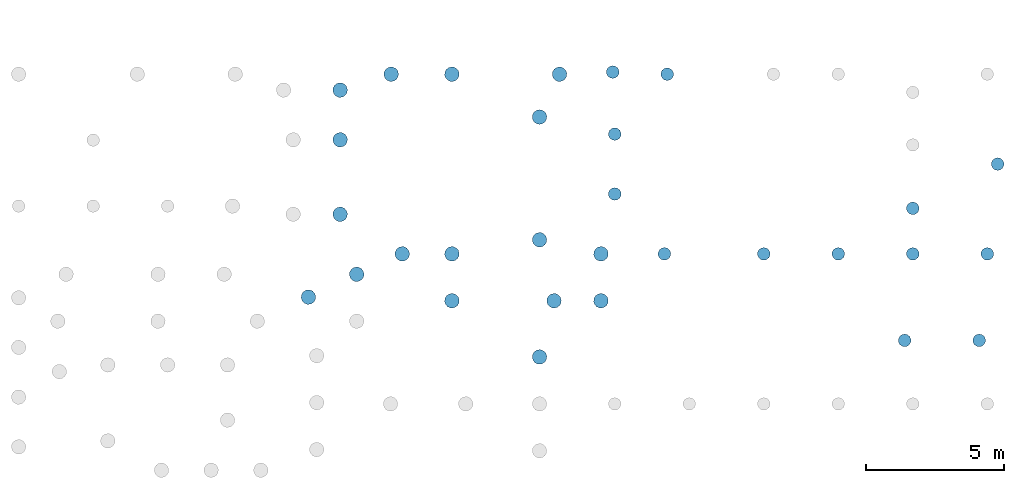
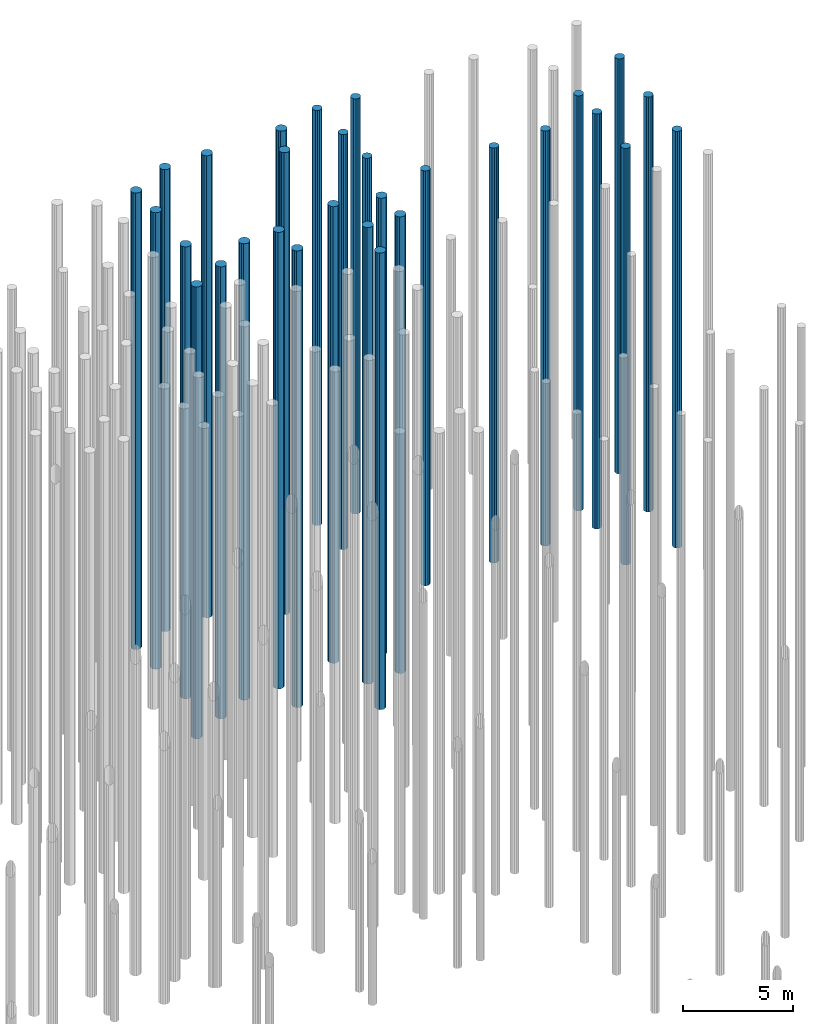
# One storey, part 19 of 20: 30 piles.
"""IFC2X3 building model written with IfcOpenShell, lengths in millimetres."""

from ifc_helpers import new_model, entity, si_unit, converted_unit, derived_unit, direction, frame, origin, place, context, subcontext, project, spatial, polyline, outline, extrude, material, element, save


model = new_model("IFC2X3")

# Units and contexts
model_context = context("Model", 3, precision=0.01, world=origin(), true_north=direction((6.12303176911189e-17, 1.0)))
body_context = subcontext(model_context, "Body", "Model", "MODEL_VIEW")
ifc_project = project(units=[si_unit("LENGTHUNIT", "METRE", prefix="MILLI"), si_unit("AREAUNIT", "SQUARE_METRE"), si_unit("VOLUMEUNIT", "CUBIC_METRE"), converted_unit("PLANEANGLEUNIT", "DEGREE", entity("IfcRatioMeasure", 0.0174532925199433), si_unit("PLANEANGLEUNIT", "RADIAN"), dimensions=[0, 0, 0, 0, 0, 0, 0]), si_unit("MASSUNIT", "GRAM", prefix="KILO"), derived_unit("MASSDENSITYUNIT", [(si_unit("MASSUNIT", "GRAM", prefix="KILO"), 1), (si_unit("LENGTHUNIT", "METRE"), -3)]), si_unit("TIMEUNIT", "SECOND"), si_unit("FREQUENCYUNIT", "HERTZ"), si_unit("THERMODYNAMICTEMPERATUREUNIT", "DEGREE_CELSIUS"), derived_unit("THERMALTRANSMITTANCEUNIT", [(si_unit("MASSUNIT", "GRAM", prefix="KILO"), 1), (si_unit("THERMODYNAMICTEMPERATUREUNIT", "KELVIN"), -1), (si_unit("TIMEUNIT", "SECOND"), -3)]), derived_unit("VOLUMETRICFLOWRATEUNIT", [(si_unit("LENGTHUNIT", "METRE"), 3), (si_unit("TIMEUNIT", "SECOND"), -1)]), si_unit("ELECTRICCURRENTUNIT", "AMPERE"), si_unit("ELECTRICVOLTAGEUNIT", "VOLT"), si_unit("POWERUNIT", "WATT"), si_unit("FORCEUNIT", "NEWTON", prefix="KILO"), si_unit("ILLUMINANCEUNIT", "LUX"), si_unit("LUMINOUSFLUXUNIT", "LUMEN"), si_unit("LUMINOUSINTENSITYUNIT", "CANDELA"), derived_unit("USERDEFINED", [(si_unit("MASSUNIT", "GRAM", prefix="KILO"), -1), (si_unit("LENGTHUNIT", "METRE"), -2), (si_unit("TIMEUNIT", "SECOND"), 3), (si_unit("LUMINOUSFLUXUNIT", "LUMEN"), 1)]), derived_unit("LINEARVELOCITYUNIT", [(si_unit("LENGTHUNIT", "METRE"), 1), (si_unit("TIMEUNIT", "SECOND"), -1)]), si_unit("PRESSUREUNIT", "PASCAL"), derived_unit("USERDEFINED", [(si_unit("LENGTHUNIT", "METRE"), -2), (si_unit("MASSUNIT", "GRAM", prefix="KILO"), 1), (si_unit("TIMEUNIT", "SECOND"), -2)])], contexts=[model_context])

# Site, building, storey
site_placement = place(None, origin())
site = spatial("IfcSite", under=ifc_project, at=site_placement, Name="Default", CompositionType="ELEMENT")
building_placement = place(site_placement, origin())
building = spatial("IfcBuilding", under=site, at=building_placement, Name="niet gebruiken", CompositionType="ELEMENT")
storey_placement = place(building_placement, frame((0.0, 0.0, -4000.0)))
storey = spatial("IfcBuildingStorey", under=building, at=storey_placement, Name="Level t.b.v. palenplan", CompositionType="ELEMENT", Elevation=-4000.0)

# Piles
ifc_material = material(Name="NLRS_f2_beton ihwg")
pile_1_placement = place(storey_placement, origin())
element("IfcPile", 1, at=pile_1_placement, inside=storey, material=ifc_material, Name="NLRS_17.12_SFO_TLB_funderingspaal grondverdringend_gen:Fundex_r530/650", ObjectType="NLRS_17.12_SFO_TLB_funderingspaal grondverdringend_gen:Fundex_r530/650", context=body_context, shape_type="SweptSolid", body=[
    extrude(outline(polyline([(-55.096598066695, -259.209114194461), (55.0965980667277, -259.209114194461), (155.763091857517, -214.389503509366), (229.496732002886, -132.500000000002), (263.548302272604, -27.7000427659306), (252.029976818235, 81.8895035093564), (196.933378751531, 177.319610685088), (107.785210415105, 242.089546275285), (55.0965980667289, 259.209114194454), (-55.0965980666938, 259.209114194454), (-155.763091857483, 214.389503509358), (-229.496732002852, 132.499999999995), (-263.54830227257, 27.7000427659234), (-252.029976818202, -81.8895035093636), (-196.933378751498, -177.319610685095), (-107.785210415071, -242.089546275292), (-55.096598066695, -259.209114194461)])), frame((102100.0, 46621.0, -23100.0), z_axis=(0.0, 0.0, 1.0), x_axis=(-0.978147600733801, -0.207911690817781, 0.0)), (0.0, 0.0, 1.0), 25328.0),
])
pile_2_placement = place(storey_placement, origin())
element("IfcPile", 2, at=pile_2_placement, inside=storey, material=ifc_material, Name="NLRS_17.12_SFO_TLB_funderingspaal grondverdringend_gen:Fundex_r530/650", ObjectType="NLRS_17.12_SFO_TLB_funderingspaal grondverdringend_gen:Fundex_r530/650", context=body_context, shape_type="SweptSolid", body=[
    extrude(outline(polyline([(-55.0965980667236, -259.209114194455), (55.0965980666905, -259.209114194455), (155.763091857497, -214.389503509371), (229.496732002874, -132.500000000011), (263.548302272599, -27.7000427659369), (252.029976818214, 81.8895035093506), (196.93337875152, 177.319610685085), (107.785210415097, 242.089546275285), (55.0965980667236, 259.209114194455), (-55.0965980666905, 259.209114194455), (-155.763091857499, 214.389503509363), (-229.496732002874, 132.500000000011), (-263.548302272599, 27.7000427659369), (-252.029976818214, -81.8895035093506), (-196.93337875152, -177.319610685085), (-107.785210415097, -242.089546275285), (-55.0965980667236, -259.209114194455)])), frame((102100.0, 44921.0, -23100.0), z_axis=(0.0, 0.0, 1.0), x_axis=(-0.978147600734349, -0.207911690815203, 0.0)), (0.0, 0.0, 1.0), 25328.0),
])
pile_3_placement = place(storey_placement, origin())
element("IfcPile", 3, at=pile_3_placement, inside=storey, material=ifc_material, Name="NLRS_17.12_SFO_TLB_funderingspaal grondverdringend_gen:Fundex_r530/650", ObjectType="NLRS_17.12_SFO_TLB_funderingspaal grondverdringend_gen:Fundex_r530/650", context=body_context, shape_type="SweptSolid", body=[
    extrude(outline(polyline([(-55.0965980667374, -259.209114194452), (55.0965980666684, -259.209114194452), (155.763091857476, -214.389503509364), (229.496732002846, -132.500000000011), (263.548302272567, -27.7000427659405), (252.029976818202, 81.8895035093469), (196.933378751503, 177.319610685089), (107.785210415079, 242.089546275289), (55.0965980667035, 259.20911419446), (-55.0965980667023, 259.20911419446), (-155.76309185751, 214.389503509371), (-229.49673200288, 132.500000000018), (-263.548302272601, 27.7000427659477), (-252.029976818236, -81.8895035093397), (-196.933378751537, -177.319610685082), (-107.785210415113, -242.089546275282), (-55.0965980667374, -259.209114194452)])), frame((100300.0, 46621.0, -23100.0), z_axis=(0.0, 0.0, 1.0), x_axis=(-0.978147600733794, -0.207911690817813, 0.0)), (0.0, 0.0, 1.0), 25328.0),
])
pile_4_placement = place(storey_placement, origin())
element("IfcPile", 4, at=pile_4_placement, inside=storey, material=ifc_material, Name="NLRS_17.12_SFO_TLB_funderingspaal grondverdringend_gen:Fundex_r530/650", ObjectType="NLRS_17.12_SFO_TLB_funderingspaal grondverdringend_gen:Fundex_r530/650", context=body_context, shape_type="SweptSolid", body=[
    extrude(outline(polyline([(-55.096598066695, -259.209114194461), (55.0965980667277, -259.209114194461), (155.763091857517, -214.389503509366), (229.496732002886, -132.500000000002), (263.548302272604, -27.7000427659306), (252.029976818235, 81.8895035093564), (196.933378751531, 177.319610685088), (107.785210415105, 242.089546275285), (55.0965980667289, 259.209114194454), (-55.0965980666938, 259.209114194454), (-155.763091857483, 214.389503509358), (-229.496732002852, 132.499999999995), (-263.54830227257, 27.7000427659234), (-252.029976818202, -81.8895035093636), (-196.933378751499, -177.319610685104), (-107.785210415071, -242.089546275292), (-55.096598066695, -259.209114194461)])), frame((102100.0, 53131.0, -23100.0), z_axis=(0.0, 0.0, 1.0), x_axis=(-0.978147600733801, -0.207911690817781, 0.0)), (0.0, 0.0, 1.0), 25628.0),
])
pile_5_placement = place(storey_placement, origin())
element("IfcPile", 5, at=pile_5_placement, inside=storey, material=ifc_material, Name="NLRS_17.12_SFO_TLB_funderingspaal grondverdringend_gen:Fundex_r530/650", ObjectType="NLRS_17.12_SFO_TLB_funderingspaal grondverdringend_gen:Fundex_r530/650", context=body_context, shape_type="SweptSolid", body=[
    extrude(outline(polyline([(-55.0965980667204, -259.209114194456), (55.0965980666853, -259.209114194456), (155.763091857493, -214.389503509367), (229.496732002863, -132.500000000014), (263.548302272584, -27.7000427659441), (252.029976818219, 81.8895035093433), (196.93337875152, 177.319610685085), (107.785210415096, 242.089546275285), (55.0965980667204, 259.209114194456), (-55.0965980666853, 259.209114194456), (-155.763091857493, 214.389503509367), (-229.496732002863, 132.500000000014), (-263.548302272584, 27.7000427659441), (-252.029976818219, -81.8895035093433), (-196.93337875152, -177.319610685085), (-107.785210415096, -242.089546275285), (-55.0965980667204, -259.209114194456)])), frame((98650.0, 45881.0, -23100.0), z_axis=(0.0, 0.0, 1.0), x_axis=(-0.978147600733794, -0.207911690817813, 0.0)), (0.0, 0.0, 1.0), 25070.0),
])
pile_6_placement = place(storey_placement, origin())
element("IfcPile", 6, at=pile_6_placement, inside=storey, material=ifc_material, Name="NLRS_17.12_SFO_TLB_funderingspaal grondverdringend_gen:Fundex_r530/650", ObjectType="NLRS_17.12_SFO_TLB_funderingspaal grondverdringend_gen:Fundex_r530/650", context=body_context, shape_type="SweptSolid", body=[
    extrude(outline(polyline([(-55.0965980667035, -259.20911419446), (55.0965980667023, -259.20911419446), (155.76309185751, -214.389503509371), (229.49673200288, -132.500000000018), (263.548302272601, -27.7000427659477), (252.029976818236, 81.8895035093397), (196.933378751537, 177.319610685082), (107.785210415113, 242.089546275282), (55.0965980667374, 259.209114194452), (-55.0965980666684, 259.209114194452), (-155.763091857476, 214.389503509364), (-229.496732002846, 132.500000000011), (-263.548302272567, 27.7000427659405), (-252.029976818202, -81.8895035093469), (-196.933378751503, -177.319610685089), (-107.785210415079, -242.089546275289), (-55.0965980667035, -259.20911419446)])), frame((98050.0, 48056.0, -23100.0), z_axis=(0.0, 0.0, 1.0), x_axis=(-0.978147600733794, -0.207911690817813, 0.0)), (0.0, 0.0, 1.0), 25070.0),
])
pile_7_placement = place(storey_placement, origin())
element("IfcPile", 7, at=pile_7_placement, inside=storey, material=ifc_material, Name="NLRS_17.12_SFO_TLB_funderingspaal grondverdringend_gen:Fundex_r530/650", ObjectType="NLRS_17.12_SFO_TLB_funderingspaal grondverdringend_gen:Fundex_r530/650", context=body_context, shape_type="SweptSolid", body=[
    extrude(outline(polyline([(-55.0965980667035, -259.20911419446), (55.0965980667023, -259.20911419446), (155.76309185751, -214.389503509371), (229.49673200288, -132.500000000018), (263.548302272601, -27.7000427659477), (252.029976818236, 81.8895035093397), (196.933378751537, 177.319610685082), (107.785210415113, 242.089546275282), (55.0965980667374, 259.209114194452), (-55.0965980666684, 259.209114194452), (-155.763091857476, 214.389503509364), (-229.496732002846, 132.500000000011), (-263.548302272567, 27.7000427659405), (-252.029976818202, -81.8895035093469), (-196.933378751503, -177.319610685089), (-107.785210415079, -242.089546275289), (-55.0965980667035, -259.20911419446)])), frame((98050.0, 50756.0, -23100.0), z_axis=(0.0, 0.0, 1.0), x_axis=(-0.978147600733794, -0.207911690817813, 0.0)), (0.0, 0.0, 1.0), 25328.0),
])
pile_8_placement = place(storey_placement, origin())
element("IfcPile", 8, at=pile_8_placement, inside=storey, material=ifc_material, Name="NLRS_17.12_SFO_TLB_funderingspaal grondverdringend_gen:Fundex_r530/650", ObjectType="NLRS_17.12_SFO_TLB_funderingspaal grondverdringend_gen:Fundex_r530/650", context=body_context, shape_type="SweptSolid", body=[
    extrude(outline(polyline([(-55.0965980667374, -259.209114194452), (55.0965980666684, -259.209114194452), (155.763091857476, -214.389503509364), (229.496732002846, -132.500000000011), (263.548302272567, -27.7000427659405), (252.029976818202, 81.8895035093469), (196.933378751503, 177.319610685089), (107.785210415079, 242.089546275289), (55.0965980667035, 259.20911419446), (-55.0965980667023, 259.20911419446), (-155.76309185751, 214.389503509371), (-229.49673200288, 132.500000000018), (-263.548302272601, 27.7000427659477), (-252.029976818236, -81.8895035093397), (-196.933378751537, -177.319610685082), (-107.785210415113, -242.089546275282), (-55.0965980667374, -259.209114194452)])), frame((98050.0, 52556.0, -23100.0), z_axis=(0.0, 0.0, 1.0), x_axis=(-0.978147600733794, -0.207911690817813, 0.0)), (0.0, 0.0, 1.0), 25328.0),
])
pile_9_placement = place(storey_placement, origin())
element("IfcPile", 9, at=pile_9_placement, inside=storey, material=ifc_material, Name="NLRS_17.12_SFO_TLB_funderingspaal grondverdringend_gen:Fundex_r530/650", ObjectType="NLRS_17.12_SFO_TLB_funderingspaal grondverdringend_gen:Fundex_r530/650", context=body_context, shape_type="SweptSolid", body=[
    extrude(outline(polyline([(-55.0965980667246, -259.209114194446), (55.0965980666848, -259.209114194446), (155.763091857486, -214.389503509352), (229.496732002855, -132.49999999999), (263.548302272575, -27.7000427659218), (252.029976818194, 81.8895035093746), (196.933378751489, 177.319610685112), (107.785210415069, 242.0895462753), (55.0965980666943, 259.20911419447), (-55.096598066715, 259.20911419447), (-155.763091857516, 214.389503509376), (-229.496732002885, 132.500000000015), (-263.548302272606, 27.700042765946), (-252.029976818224, -81.8895035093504), (-196.933378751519, -177.319610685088), (-107.785210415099, -242.089546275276), (-55.0965980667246, -259.209114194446)])), frame((106000.0, 53131.0, -23100.0), z_axis=(0.0, 0.0, 1.0), x_axis=(-0.978147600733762, -0.207911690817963, 0.0)), (0.0, 0.0, 1.0), 25628.0),
])
pile_10_placement = place(storey_placement, origin())
element("IfcPile", 10, at=pile_10_placement, inside=storey, material=ifc_material, Name="NLRS_17.12_SFO_TLB_funderingspaal grondverdringend_gen:Fundex_r460/560", ObjectType="NLRS_17.12_SFO_TLB_funderingspaal grondverdringend_gen:Fundex_r460/560", context=body_context, shape_type="SweptSolid", body=[
    extrude(outline(polyline([(-25.7518295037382, -228.553808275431), (25.7518295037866, -228.553808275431), (122.367377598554, -194.746565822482), (194.746565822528, -122.367377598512), (228.553808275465, -25.7518295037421), (217.093165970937, 75.9641842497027), (162.63455967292, 162.634559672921), (75.9641842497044, 217.093165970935), (25.7518295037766, 228.553808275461), (-25.7518295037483, 228.553808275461), (-122.367377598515, 194.746565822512), (-194.74656582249, 122.367377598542), (-228.553808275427, 25.7518295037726), (-217.093165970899, -75.9641842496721), (-162.634559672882, -162.634559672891), (-75.9641842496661, -217.093165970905), (-25.7518295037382, -228.553808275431)])), frame((109900.0, 53131.0, -20100.0), z_axis=(0.0, 0.0, 1.0), x_axis=(0.111964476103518, -0.993712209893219, 0.0)), (0.0, 0.0, 1.0), 23028.0),
])
pile_11_placement = place(storey_placement, origin())
element("IfcPile", 11, at=pile_11_placement, inside=storey, material=ifc_material, Name="NLRS_17.12_SFO_TLB_funderingspaal grondverdringend_gen:Fundex_r460/560", ObjectType="NLRS_17.12_SFO_TLB_funderingspaal grondverdringend_gen:Fundex_r460/560", context=body_context, shape_type="SweptSolid", body=[
    extrude(outline(polyline([(-25.751829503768, -228.553808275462), (25.7518295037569, -228.553808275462), (122.367377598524, -194.746565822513), (194.746565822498, -122.367377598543), (228.553808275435, -25.7518295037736), (217.093165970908, 75.9641842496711), (162.634559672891, 162.63455967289), (75.9641842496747, 217.093165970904), (25.7518295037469, 228.55380827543), (-25.751829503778, 228.55380827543), (-122.367377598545, 194.746565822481), (-194.74656582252, 122.367377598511), (-228.553808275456, 25.7518295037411), (-217.093165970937, -75.9641842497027), (-162.634559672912, -162.634559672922), (-75.9641842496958, -217.093165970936), (-25.751829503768, -228.553808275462)])), frame((107927.162729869, 53210.0171539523, -20100.0), z_axis=(0.0, 0.0, 1.0), x_axis=(0.111964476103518, -0.993712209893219, 0.0)), (0.0, 0.0, 1.0), 23028.0),
])
pile_12_placement = place(storey_placement, origin())
element("IfcPile", 12, at=pile_12_placement, inside=storey, material=ifc_material, Name="NLRS_17.12_SFO_TLB_funderingspaal grondverdringend_gen:Fundex_r460/560", ObjectType="NLRS_17.12_SFO_TLB_funderingspaal grondverdringend_gen:Fundex_r460/560", context=body_context, shape_type="SweptSolid", body=[
    extrude(outline(polyline([(-25.7518295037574, -228.553808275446), (25.7518295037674, -228.553808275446), (122.367377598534, -194.746565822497), (194.746565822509, -122.367377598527), (228.553808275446, -25.7518295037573), (217.093165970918, 75.9641842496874), (162.634559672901, 162.634559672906), (75.9641842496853, 217.09316597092), (25.7518295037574, 228.553808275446), (-25.7518295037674, 228.553808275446), (-122.367377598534, 194.746565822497), (-194.746565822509, 122.367377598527), (-228.553808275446, 25.7518295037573), (-217.093165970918, -75.9641842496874), (-162.634559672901, -162.634559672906), (-75.9641842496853, -217.09316597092), (-25.7518295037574, -228.553808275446)])), frame((118800.0, 48271.0, -20100.0), z_axis=(0.0, 0.0, 1.0), x_axis=(0.111964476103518, -0.993712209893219, 0.0)), (0.0, 0.0, 1.0), 23028.0),
])
pile_13_placement = place(storey_placement, origin())
element("IfcPile", 13, at=pile_13_placement, inside=storey, material=ifc_material, Name="NLRS_17.12_SFO_TLB_funderingspaal grondverdringend_gen:Fundex_r460/560", ObjectType="NLRS_17.12_SFO_TLB_funderingspaal grondverdringend_gen:Fundex_r460/560", context=body_context, shape_type="SweptSolid", body=[
    extrude(outline(polyline([(-25.7518295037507, -228.553808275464), (25.7518295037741, -228.553808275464), (122.367377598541, -194.746565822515), (194.746565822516, -122.367377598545), (228.553808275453, -25.7518295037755), (217.093165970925, 75.9641842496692), (162.634559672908, 162.634559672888), (75.9641842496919, 217.093165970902), (25.7518295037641, 228.553808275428), (-25.7518295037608, 228.553808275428), (-122.367377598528, 194.746565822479), (-194.746565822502, 122.367377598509), (-228.553808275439, 25.7518295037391), (-217.093165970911, -75.9641842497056), (-162.634559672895, -162.634559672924), (-75.9641842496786, -217.093165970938), (-25.7518295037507, -228.553808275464)])), frame((121875.0, 49876.0, -20100.0), z_axis=(0.0, 0.0, 1.0), x_axis=(0.111964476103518, -0.993712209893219, 0.0)), (0.0, 0.0, 1.0), 23028.0),
])
pile_14_placement = place(storey_placement, origin())
element("IfcPile", 14, at=pile_14_placement, inside=storey, material=ifc_material, Name="NLRS_17.12_SFO_TLB_funderingspaal grondverdringend_gen:Fundex_r460/560", ObjectType="NLRS_17.12_SFO_TLB_funderingspaal grondverdringend_gen:Fundex_r460/560", context=body_context, shape_type="SweptSolid", body=[
    extrude(outline(polyline([(-25.751829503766, -228.553808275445), (25.7518295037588, -228.553808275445), (122.367377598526, -194.746565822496), (194.7465658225, -122.367377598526), (228.553808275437, -25.7518295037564), (217.093165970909, 75.9641842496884), (162.634559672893, 162.634559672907), (75.9641842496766, 217.093165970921), (25.7518295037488, 228.553808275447), (-25.751829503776, 228.553808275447), (-122.367377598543, 194.746565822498), (-194.746565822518, 122.367377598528), (-228.553808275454, 25.7518295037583), (-217.093165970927, -75.9641842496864), (-162.63455967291, -162.634559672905), (-75.9641842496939, -217.093165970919), (-25.751829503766, -228.553808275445)])), frame((118800.0, 46621.0, -20100.0), z_axis=(0.0, 0.0, 1.0), x_axis=(0.111964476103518, -0.993712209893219, 0.0)), (0.0, 0.0, 1.0), 23018.0),
])
pile_15_placement = place(storey_placement, origin())
element("IfcPile", 15, at=pile_15_placement, inside=storey, material=ifc_material, Name="NLRS_17.12_SFO_TLB_funderingspaal grondverdringend_gen:Fundex_r460/560", ObjectType="NLRS_17.12_SFO_TLB_funderingspaal grondverdringend_gen:Fundex_r460/560", context=body_context, shape_type="SweptSolid", body=[
    extrude(outline(polyline([(-25.7518295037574, -228.553808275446), (25.7518295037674, -228.553808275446), (122.367377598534, -194.746565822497), (194.746565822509, -122.367377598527), (228.553808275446, -25.7518295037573), (217.093165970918, 75.9641842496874), (162.634559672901, 162.634559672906), (75.9641842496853, 217.09316597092), (25.7518295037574, 228.553808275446), (-25.7518295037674, 228.553808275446), (-122.367377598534, 194.746565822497), (-194.746565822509, 122.367377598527), (-228.553808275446, 25.7518295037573), (-217.093165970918, -75.9641842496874), (-162.634559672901, -162.634559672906), (-75.9641842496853, -217.09316597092), (-25.7518295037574, -228.553808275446)])), frame((121500.0, 46621.0, -20100.0), z_axis=(0.0, 0.0, 1.0), x_axis=(0.111964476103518, -0.993712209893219, 0.0)), (0.0, 0.0, 1.0), 23018.0),
])
pile_16_placement = place(storey_placement, origin())
element("IfcPile", 16, at=pile_16_placement, inside=storey, material=ifc_material, Name="NLRS_17.12_SFO_TLB_funderingspaal grondverdringend_gen:Fundex_r460/560", ObjectType="NLRS_17.12_SFO_TLB_funderingspaal grondverdringend_gen:Fundex_r460/560", context=body_context, shape_type="SweptSolid", body=[
    extrude(outline(polyline([(-25.7518295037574, -228.553808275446), (25.7518295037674, -228.553808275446), (122.367377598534, -194.746565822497), (194.746565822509, -122.367377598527), (228.553808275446, -25.7518295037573), (217.093165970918, 75.9641842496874), (162.634559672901, 162.634559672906), (75.9641842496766, 217.093165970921), (25.7518295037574, 228.553808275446), (-25.7518295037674, 228.553808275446), (-122.367377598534, 194.746565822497), (-194.746565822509, 122.367377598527), (-228.553808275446, 25.7518295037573), (-217.093165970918, -75.9641842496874), (-162.634559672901, -162.634559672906), (-75.9641842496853, -217.09316597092), (-25.7518295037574, -228.553808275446)])), frame((116100.0, 46621.0, -20100.0), z_axis=(0.0, 0.0, 1.0), x_axis=(0.111964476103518, -0.993712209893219, 0.0)), (0.0, 0.0, 1.0), 23018.0),
])
pile_17_placement = place(storey_placement, origin())
element("IfcPile", 17, at=pile_17_placement, inside=storey, material=ifc_material, Name="NLRS_17.12_SFO_TLB_funderingspaal grondverdringend_gen:Fundex_r460/560", ObjectType="NLRS_17.12_SFO_TLB_funderingspaal grondverdringend_gen:Fundex_r460/560", context=body_context, shape_type="SweptSolid", body=[
    extrude(outline(polyline([(-25.7518295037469, -228.55380827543), (25.751829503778, -228.55380827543), (122.367377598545, -194.746565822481), (194.74656582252, -122.367377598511), (228.553808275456, -25.7518295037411), (217.093165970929, 75.9641842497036), (162.634559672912, 162.634559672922), (75.9641842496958, 217.093165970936), (25.751829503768, 228.553808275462), (-25.7518295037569, 228.553808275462), (-122.367377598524, 194.746565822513), (-194.746565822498, 122.367377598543), (-228.553808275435, 25.7518295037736), (-217.093165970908, -75.9641842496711), (-162.634559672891, -162.63455967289), (-75.9641842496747, -217.093165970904), (-25.7518295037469, -228.55380827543)])), frame((113400.0, 46621.0, -20100.0), z_axis=(0.0, 0.0, 1.0), x_axis=(0.111964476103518, -0.993712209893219, 0.0)), (0.0, 0.0, 1.0), 23018.0),
])
pile_18_placement = place(storey_placement, origin())
element("IfcPile", 18, at=pile_18_placement, inside=storey, material=ifc_material, Name="NLRS_17.12_SFO_TLB_funderingspaal grondverdringend_gen:Fundex_r460/560", ObjectType="NLRS_17.12_SFO_TLB_funderingspaal grondverdringend_gen:Fundex_r460/560", context=body_context, shape_type="SweptSolid", body=[
    extrude(outline(polyline([(-25.7518295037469, -228.55380827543), (25.751829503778, -228.55380827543), (122.367377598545, -194.746565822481), (194.74656582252, -122.367377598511), (228.553808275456, -25.7518295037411), (217.093165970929, 75.9641842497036), (162.634559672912, 162.634559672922), (75.9641842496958, 217.093165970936), (25.751829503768, 228.553808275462), (-25.7518295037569, 228.553808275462), (-122.367377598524, 194.746565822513), (-194.746565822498, 122.367377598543), (-228.553808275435, 25.7518295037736), (-217.093165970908, -75.9641842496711), (-162.634559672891, -162.63455967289), (-75.9641842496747, -217.093165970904), (-25.7518295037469, -228.55380827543)])), frame((109800.0, 46621.0, -20100.0), z_axis=(0.0, 0.0, 1.0), x_axis=(0.111964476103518, -0.993712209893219, 0.0)), (0.0, 0.0, 1.0), 23018.0),
])
pile_19_placement = place(storey_placement, origin())
element("IfcPile", 19, at=pile_19_placement, inside=storey, material=ifc_material, Name="NLRS_17.12_SFO_TLB_funderingspaal grondverdringend_gen:Fundex_r460/560", ObjectType="NLRS_17.12_SFO_TLB_funderingspaal grondverdringend_gen:Fundex_r460/560", context=body_context, shape_type="SweptSolid", body=[
    extrude(outline(polyline([(-25.7518295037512, -228.553808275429), (25.7518295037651, -228.553808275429), (122.367377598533, -194.746565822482), (194.746565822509, -122.367377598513), (228.553808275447, -25.7518295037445), (217.093165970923, 75.9641842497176), (162.634559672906, 162.63455967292), (75.9641842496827, 217.093165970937), (25.751829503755, 228.553808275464), (-25.7518295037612, 228.553808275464), (-122.367377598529, 194.746565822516), (-194.746565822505, 122.367377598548), (-228.553808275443, 25.751829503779), (-217.09316597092, -75.9641842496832), (-162.634559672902, -162.634559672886), (-75.9641842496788, -217.093165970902), (-25.7518295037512, -228.553808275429)])), frame((108000.0, 48791.0, -20100.0), z_axis=(0.0, 0.0, 1.0), x_axis=(0.111964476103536, -0.993712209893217, 0.0)), (0.0, 0.0, 1.0), 23028.0),
])
pile_20_placement = place(storey_placement, origin())
element("IfcPile", 20, at=pile_20_placement, inside=storey, material=ifc_material, Name="NLRS_17.12_SFO_TLB_funderingspaal grondverdringend_gen:Fundex_r460/560", ObjectType="NLRS_17.12_SFO_TLB_funderingspaal grondverdringend_gen:Fundex_r460/560", context=body_context, shape_type="SweptSolid", body=[
    extrude(outline(polyline([(-25.7518295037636, -228.553808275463), (25.7518295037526, -228.553808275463), (122.36737759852, -194.746565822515), (194.746565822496, -122.367377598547), (228.553808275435, -25.751829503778), (217.093165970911, 75.9641842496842), (162.634559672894, 162.634559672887), (75.9641842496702, 217.093165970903), (25.7518295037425, 228.55380827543), (-25.7518295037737, 228.55380827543), (-122.367377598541, 194.746565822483), (-194.746565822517, 122.367377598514), (-228.553808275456, 25.7518295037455), (-217.093165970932, -75.9641842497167), (-162.634559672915, -162.634559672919), (-75.9641842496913, -217.093165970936), (-25.7518295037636, -228.553808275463)])), frame((108000.0, 50961.0, -20100.0), z_axis=(0.0, 0.0, 1.0), x_axis=(0.111964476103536, -0.993712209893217, 0.0)), (0.0, 0.0, 1.0), 23028.0),
])
pile_21_placement = place(storey_placement, origin())
element("IfcPile", 21, at=pile_21_placement, inside=storey, material=ifc_material, Name="NLRS_17.12_SFO_TLB_funderingspaal grondverdringend_gen:Fundex_r530/650", ObjectType="NLRS_17.12_SFO_TLB_funderingspaal grondverdringend_gen:Fundex_r530/650", context=body_context, shape_type="SweptSolid", body=[
    extrude(outline(polyline([(-55.0965980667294, -259.209114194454), (55.0965980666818, -259.209114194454), (155.763091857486, -214.389503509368), (229.496732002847, -132.499999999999), (263.548302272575, -27.7000427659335), (252.0299768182, 81.8895035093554), (196.933378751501, 177.319610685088), (107.785210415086, 242.089546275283), (55.0965980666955, 259.209114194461), (-55.0965980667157, 259.209114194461), (-155.76309185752, 214.389503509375), (-229.49673200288, 132.500000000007), (-263.548302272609, 27.7000427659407), (-252.029976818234, -81.8895035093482), (-196.933378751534, -177.319610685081), (-107.78521041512, -242.089546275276), (-55.0965980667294, -259.209114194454)])), frame((107500.0, 46621.0, -23100.0), z_axis=(0.0, 0.0, 1.0), x_axis=(-0.978147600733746, -0.207911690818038, 0.0)), (0.0, 0.0, 1.0), 25328.0),
])
pile_22_placement = place(storey_placement, origin())
element("IfcPile", 22, at=pile_22_placement, inside=storey, material=ifc_material, Name="NLRS_17.12_SFO_TLB_funderingspaal grondverdringend_gen:Fundex_r460/560", ObjectType="NLRS_17.12_SFO_TLB_funderingspaal grondverdringend_gen:Fundex_r460/560", context=body_context, shape_type="SweptSolid", body=[
    extrude(outline(polyline([(-25.7518295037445, -228.553808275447), (25.7518295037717, -228.553808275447), (122.367377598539, -194.7465658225), (194.746565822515, -122.367377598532), (228.553808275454, -25.7518295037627), (217.093165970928, 75.9641842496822), (162.634559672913, 162.634559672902), (75.9641842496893, 217.093165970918), (25.7518295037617, 228.553808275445), (-25.7518295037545, 228.553808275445), (-122.367377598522, 194.746565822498), (-194.746565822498, 122.36737759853), (-228.553808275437, 25.7518295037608), (-217.093165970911, -75.9641842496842), (-162.634559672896, -162.634559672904), (-75.9641842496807, -217.093165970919), (-25.7518295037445, -228.553808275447)])), frame((118505.0, 43486.0, -20100.0), z_axis=(0.0, 0.0, 1.0), x_axis=(0.111964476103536, -0.993712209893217, 0.0)), (0.0, 0.0, 1.0), 23118.0),
])
pile_23_placement = place(storey_placement, origin())
element("IfcPile", 23, at=pile_23_placement, inside=storey, material=ifc_material, Name="NLRS_17.12_SFO_TLB_funderingspaal grondverdringend_gen:Fundex_r460/560", ObjectType="NLRS_17.12_SFO_TLB_funderingspaal grondverdringend_gen:Fundex_r460/560", context=body_context, shape_type="SweptSolid", body=[
    extrude(outline(polyline([(-25.7518295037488, -228.553808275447), (25.751829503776, -228.553808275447), (122.367377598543, -194.746565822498), (194.746565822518, -122.367377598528), (228.553808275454, -25.7518295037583), (217.093165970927, 75.9641842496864), (162.63455967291, 162.634559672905), (75.9641842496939, 217.093165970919), (25.751829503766, 228.553808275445), (-25.7518295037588, 228.553808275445), (-122.367377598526, 194.746565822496), (-194.7465658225, 122.367377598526), (-228.553808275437, 25.7518295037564), (-217.093165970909, -75.9641842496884), (-162.634559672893, -162.634559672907), (-75.9641842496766, -217.093165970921), (-25.7518295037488, -228.553808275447)])), frame((121205.0, 43486.0, -20100.0), z_axis=(0.0, 0.0, 1.0), x_axis=(0.111964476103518, -0.993712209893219, 0.0)), (0.0, 0.0, 1.0), 23118.0),
])
pile_24_placement = place(storey_placement, origin())
element("IfcPile", 24, at=pile_24_placement, inside=storey, material=ifc_material, Name="NLRS_17.12_SFO_TLB_funderingspaal grondverdringend_gen:Fundex_r530/650", ObjectType="NLRS_17.12_SFO_TLB_funderingspaal grondverdringend_gen:Fundex_r530/650", context=body_context, shape_type="SweptSolid", body=[
    extrude(outline(polyline([(-55.0965980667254, -259.209114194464), (55.0965980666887, -259.209114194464), (155.763091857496, -214.38950350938), (229.496732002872, -132.50000000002), (263.548302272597, -27.7000427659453), (252.029976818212, 81.8895035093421), (196.933378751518, 177.319610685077), (107.785210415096, 242.089546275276), (55.0965980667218, 259.209114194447), (-55.0965980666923, 259.209114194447), (-155.763091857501, 214.389503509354), (-229.496732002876, 132.500000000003), (-263.5483022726, 27.7000427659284), (-252.029976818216, -81.889503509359), (-196.933378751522, -177.319610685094), (-107.785210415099, -242.089546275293), (-55.0965980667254, -259.209114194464)])), frame((105800.0, 44921.0, -23100.0), z_axis=(0.0, 0.0, 1.0), x_axis=(-0.978147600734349, -0.207911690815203, 0.0)), (0.0, 0.0, 1.0), 25328.0),
])
pile_25_placement = place(storey_placement, origin())
element("IfcPile", 25, at=pile_25_placement, inside=storey, material=ifc_material, Name="NLRS_17.12_SFO_TLB_funderingspaal grondverdringend_gen:Fundex_r530/650", ObjectType="NLRS_17.12_SFO_TLB_funderingspaal grondverdringend_gen:Fundex_r530/650", context=body_context, shape_type="SweptSolid", body=[
    extrude(outline(polyline([(-55.0965980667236, -259.209114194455), (55.0965980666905, -259.209114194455), (155.763091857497, -214.389503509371), (229.496732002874, -132.500000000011), (263.548302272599, -27.7000427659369), (252.029976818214, 81.8895035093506), (196.93337875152, 177.319610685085), (107.785210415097, 242.089546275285), (55.0965980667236, 259.209114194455), (-55.0965980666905, 259.209114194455), (-155.763091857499, 214.389503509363), (-229.496732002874, 132.500000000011), (-263.548302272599, 27.7000427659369), (-252.029976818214, -81.8895035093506), (-196.93337875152, -177.319610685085), (-107.785210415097, -242.089546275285), (-55.0965980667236, -259.209114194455)])), frame((105275.0, 42886.0, -23100.0), z_axis=(0.0, 0.0, 1.0), x_axis=(-0.978147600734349, -0.207911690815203, 0.0)), (0.0, 0.0, 1.0), 25328.0),
])
pile_26_placement = place(storey_placement, origin())
element("IfcPile", 26, at=pile_26_placement, inside=storey, material=ifc_material, Name="NLRS_17.12_SFO_TLB_funderingspaal grondverdringend_gen:Fundex_r530/650", ObjectType="NLRS_17.12_SFO_TLB_funderingspaal grondverdringend_gen:Fundex_r530/650", context=body_context, shape_type="SweptSolid", body=[
    extrude(outline(polyline([(-55.0965980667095, -259.209114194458), (55.0965980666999, -259.209114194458), (155.763091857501, -214.389503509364), (229.49673200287, -132.500000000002), (263.548302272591, -27.7000427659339), (252.029976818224, 81.8895035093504), (196.933378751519, 177.319610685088), (107.785210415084, 242.089546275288), (55.0965980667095, 259.209114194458), (-55.0965980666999, 259.209114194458), (-155.763091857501, 214.389503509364), (-229.49673200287, 132.500000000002), (-263.548302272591, 27.7000427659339), (-252.029976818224, -81.8895035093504), (-196.933378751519, -177.319610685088), (-107.785210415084, -242.089546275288), (-55.0965980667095, -259.209114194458)])), frame((105275.0, 51581.0, -23100.0), z_axis=(0.0, 0.0, 1.0), x_axis=(-0.978147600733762, -0.207911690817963, 0.0)), (0.0, 0.0, 1.0), 25628.0),
])
pile_27_placement = place(storey_placement, origin())
element("IfcPile", 27, at=pile_27_placement, inside=storey, material=ifc_material, Name="NLRS_17.12_SFO_TLB_funderingspaal grondverdringend_gen:Fundex_r530/650", ObjectType="NLRS_17.12_SFO_TLB_funderingspaal grondverdringend_gen:Fundex_r530/650", context=body_context, shape_type="SweptSolid", body=[
    extrude(outline(polyline([(-55.0965980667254, -259.209114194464), (55.0965980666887, -259.209114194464), (155.763091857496, -214.38950350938), (229.496732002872, -132.50000000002), (263.548302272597, -27.7000427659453), (252.029976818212, 81.8895035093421), (196.933378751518, 177.319610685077), (107.785210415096, 242.089546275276), (55.0965980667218, 259.209114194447), (-55.0965980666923, 259.209114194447), (-155.763091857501, 214.389503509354), (-229.496732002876, 132.500000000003), (-263.5483022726, 27.7000427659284), (-252.029976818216, -81.889503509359), (-196.933378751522, -177.319610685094), (-107.785210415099, -242.089546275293), (-55.0965980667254, -259.209114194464)])), frame((107500.0, 44921.0, -23100.0), z_axis=(0.0, 0.0, 1.0), x_axis=(-0.978147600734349, -0.207911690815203, 0.0)), (0.0, 0.0, 1.0), 25328.0),
])
pile_28_placement = place(storey_placement, origin())
element("IfcPile", 28, at=pile_28_placement, inside=storey, material=ifc_material, Name="NLRS_17.12_SFO_TLB_funderingspaal grondverdringend_gen:Fundex_r530/650", ObjectType="NLRS_17.12_SFO_TLB_funderingspaal grondverdringend_gen:Fundex_r530/650", context=body_context, shape_type="SweptSolid", body=[
    extrude(outline(polyline([(-55.0965980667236, -259.209114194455), (55.0965980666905, -259.209114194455), (155.763091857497, -214.389503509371), (229.496732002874, -132.500000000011), (263.548302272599, -27.7000427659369), (252.029976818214, 81.8895035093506), (196.93337875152, 177.319610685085), (107.785210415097, 242.089546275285), (55.0965980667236, 259.209114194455), (-55.0965980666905, 259.209114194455), (-155.763091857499, 214.389503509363), (-229.496732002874, 132.500000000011), (-263.548302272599, 27.7000427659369), (-252.029976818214, -81.8895035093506), (-196.93337875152, -177.319610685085), (-107.785210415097, -242.089546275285), (-55.0965980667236, -259.209114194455)])), frame((105275.0, 47131.0, -23100.0), z_axis=(0.0, 0.0, 1.0), x_axis=(-0.978147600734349, -0.207911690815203, 0.0)), (0.0, 0.0, 1.0), 25328.0),
])
pile_29_placement = place(storey_placement, origin())
element("IfcPile", 29, at=pile_29_placement, inside=storey, material=ifc_material, Name="NLRS_17.12_SFO_TLB_funderingspaal grondverdringend_gen:Fundex_r530/650", ObjectType="NLRS_17.12_SFO_TLB_funderingspaal grondverdringend_gen:Fundex_r530/650", context=body_context, shape_type="SweptSolid", body=[
    extrude(outline(polyline([(-55.0965980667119, -259.209114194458), (55.0965980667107, -259.209114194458), (155.7630918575, -214.389503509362), (229.496732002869, -132.499999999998), (263.548302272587, -27.700042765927), (252.029976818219, 81.88950350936), (196.933378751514, 177.319610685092), (107.785210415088, 242.089546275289), (55.0965980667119, 259.209114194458), (-55.0965980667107, 259.209114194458), (-155.7630918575, 214.389503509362), (-229.496732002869, 132.499999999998), (-263.548302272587, 27.700042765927), (-252.029976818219, -81.88950350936), (-196.933378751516, -177.3196106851), (-107.785210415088, -242.089546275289), (-55.0965980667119, -259.209114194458)])), frame((99900.0, 53131.0, -23100.0), z_axis=(0.0, 0.0, 1.0), x_axis=(-0.978147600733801, -0.207911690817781, 0.0)), (0.0, 0.0, 1.0), 25628.0),
])
pile_30_placement = place(storey_placement, origin())
element("IfcPile", 30, at=pile_30_placement, inside=storey, material=ifc_material, Name="NLRS_17.12_SFO_TLB_funderingspaal grondverdringend_gen:Fundex_r530/650", ObjectType="NLRS_17.12_SFO_TLB_funderingspaal grondverdringend_gen:Fundex_r530/650", context=body_context, shape_type="SweptSolid", body=[
    extrude(outline(polyline([(-55.0965980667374, -259.209114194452), (55.0965980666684, -259.209114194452), (155.763091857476, -214.389503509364), (229.496732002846, -132.500000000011), (263.548302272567, -27.7000427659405), (252.029976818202, 81.8895035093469), (196.933378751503, 177.319610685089), (107.785210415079, 242.089546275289), (55.0965980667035, 259.20911419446), (-55.0965980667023, 259.20911419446), (-155.76309185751, 214.389503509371), (-229.49673200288, 132.500000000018), (-263.548302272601, 27.7000427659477), (-252.029976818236, -81.8895035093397), (-196.933378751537, -177.319610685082), (-107.785210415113, -242.089546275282), (-55.0965980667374, -259.209114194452)])), frame((96900.0, 45056.0, -23100.0), z_axis=(0.0, 0.0, 1.0), x_axis=(-0.978147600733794, -0.207911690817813, 0.0)), (0.0, 0.0, 1.0), 25070.0),
])

save(model, "model.ifc")
